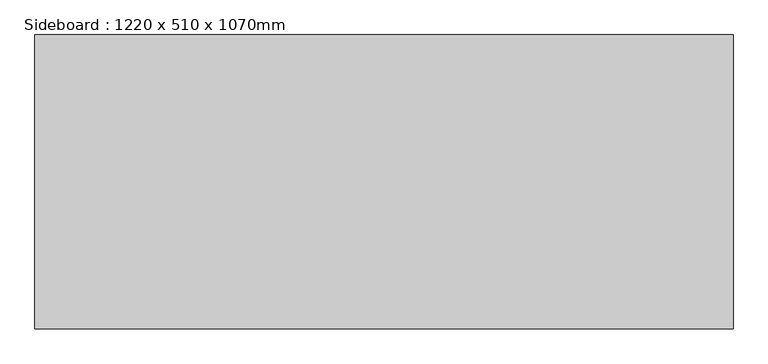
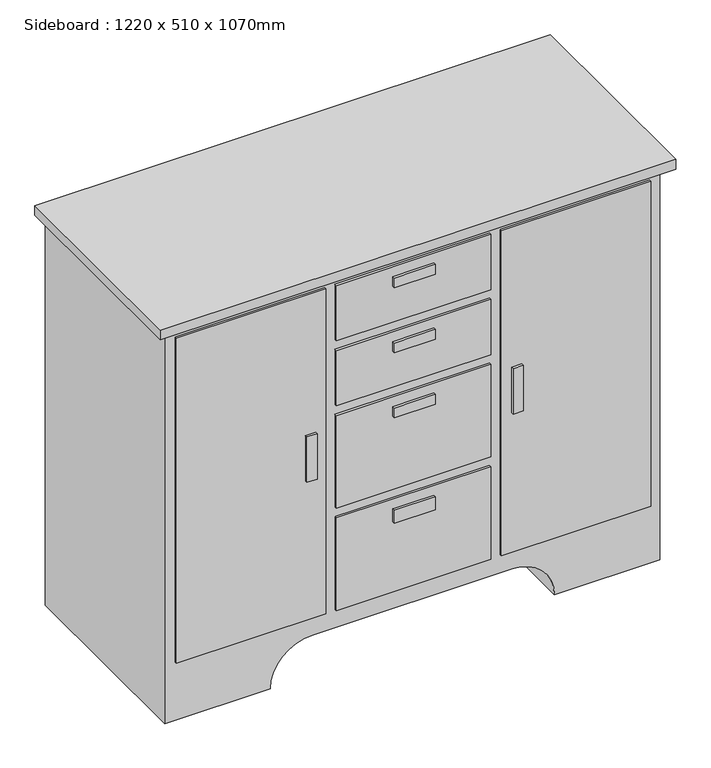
"""IFC4 building model written with IfcOpenShell, lengths in millimetres: furniture geometry, Sideboard : 1220 x 510 x 1070mm."""

from ifc_helpers import new_model, si_unit, point, frame, frame_2d, origin, place, context, project, spatial, polyline, circle_curve, trimmed, segment, composite_curve, outline, extrude, source, transform, mapped, element, save


def sideboard_1220_x_510_x_1070mm_fd823649(model_context):
    return source(origin(), model_context, "Body", "SweptSolid", [
        extrude(outline(composite_curve([segment(polyline([(0.3974948, 315.4067402), (1024.9401786, 315.4067402), (1024.9401786, -904.5932598), (0.3401786, -904.5932598), (0.3401786, -644.7676781)]), True, "CONTINUOUS"), segment(trimmed(circle_curve(frame_2d((0.3401786, -541.2410879)), 103.5265902), [point((0.3401786, -644.7676781))], [point((103.8667688, -541.2410879))], True, "CARTESIAN"), True, "CONTINUOUS"), segment(polyline([(103.8667688, -541.2410879), (103.8667688, -47.5265362)]), True, "CONTINUOUS"), segment(trimmed(circle_curve(frame_2d((0.3974948, -47.5265362)), 103.469274), [point((103.8667688, -47.5265362))], [point((0.3974948, 55.9427378))], True, "CARTESIAN"), True, "CONTINUOUS"), segment(polyline([(0.3974948, 55.9427378), (0.3974948, 315.4067402)]), True, "CONTINUOUS")], self_intersect=False)), frame((0.0, -618.1629541, 0.0), z_axis=(0.0, 1.0, 0.0), x_axis=(0.0, 0.0, 1.0)), (0.0, 0.0, 1.0), 510.0),
        extrude(outline(polyline([(-536.0265932, -630.8629541), (-561.4265932, -630.8629541), (-561.4265932, -624.5129541), (-536.0265932, -624.5129541), (-536.0265932, -630.8629541)])), frame((0.0, 0.0, 516.758125), z_axis=(0.0, 0.0, 1.0), x_axis=(1.0, 0.0, 0.0)), (0.0, 0.0, 1.0), 118.56),
        extrude(outline(polyline([(-244.5230145, -630.8629541), (-346.0702491, -630.8629541), (-346.0702491, -624.5129541), (-244.5230145, -624.5129541), (-244.5230145, -630.8629541)])), frame((0.0, 0.0, 948.7401786), z_axis=(0.0, 0.0, 1.0), x_axis=(1.0, 0.0, 0.0)), (0.0, 0.0, 1.0), 25.4),
        extrude(outline(polyline([(-244.5230145, -630.8629541), (-346.0702491, -630.8629541), (-346.0702491, -624.5129541), (-244.5230145, -624.5129541), (-244.5230145, -630.8629541)])), frame((0.0, 0.0, 779.3121429), z_axis=(0.0, 0.0, 1.0), x_axis=(1.0, 0.0, 0.0)), (0.0, 0.0, 1.0), 25.4),
        extrude(outline(polyline([(-244.5230145, -630.8629541), (-346.0702491, -630.8629541), (-346.0702491, -624.5129541), (-244.5230145, -624.5129541), (-244.5230145, -630.8629541)])), frame((0.0, 0.0, 609.918125), z_axis=(0.0, 0.0, 1.0), x_axis=(1.0, 0.0, 0.0)), (0.0, 0.0, 1.0), 25.4),
        extrude(outline(polyline([(-244.5230145, -630.8629541), (-346.0702491, -630.8629541), (-346.0702491, -624.5129541), (-244.5230145, -624.5129541), (-244.5230145, -630.8629541)])), frame((0.0, 0.0, 334.5620536), z_axis=(0.0, 0.0, 1.0), x_axis=(1.0, 0.0, 0.0)), (0.0, 0.0, 1.0), 33.88),
        extrude(outline(polyline([(-27.7599265, -630.8629541), (-53.1599265, -630.8629541), (-53.1599265, -624.5129541), (-27.7599265, -624.5129541), (-27.7599265, -630.8629541)])), frame((0.0, 0.0, 516.758125), z_axis=(0.0, 0.0, 1.0), x_axis=(1.0, 0.0, 0.0)), (0.0, 0.0, 1.0), 118.56),
        extrude(outline(polyline([(-510.6265932, -624.5129541), (-879.1932598, -624.5129541), (-879.1932598, -618.1629541), (-510.6265932, -618.1629541), (-510.6265932, -624.5129541)])), frame((0.0, 0.0, 152.4), z_axis=(0.0, 0.0, 1.0), x_axis=(1.0, 0.0, 0.0)), (0.0, 0.0, 1.0), 847.1401786),
        extrude(outline(polyline([(290.0067402, -624.5129541), (-78.5599265, -624.5129541), (-78.5599265, -618.1629541), (290.0067402, -618.1629541), (290.0067402, -624.5129541)])), frame((0.0, 0.0, 152.4), z_axis=(0.0, 0.0, 1.0), x_axis=(1.0, 0.0, 0.0)), (0.0, 0.0, 1.0), 847.1401786),
        extrude(outline(polyline([(-103.9599265, -624.5129541), (-485.2265932, -624.5129541), (-485.2265932, -618.1629541), (-103.9599265, -618.1629541), (-103.9599265, -624.5129541)])), frame((0.0, 0.0, 855.5121429), z_axis=(0.0, 0.0, 1.0), x_axis=(1.0, 0.0, 0.0)), (0.0, 0.0, 1.0), 144.0280357),
        extrude(outline(polyline([(-103.9599265, -624.5129541), (-485.2265932, -624.5129541), (-485.2265932, -618.1629541), (-103.9599265, -618.1629541), (-103.9599265, -624.5129541)])), frame((0.0, 0.0, 686.0841071), z_axis=(0.0, 0.0, 1.0), x_axis=(1.0, 0.0, 0.0)), (0.0, 0.0, 1.0), 144.0280357),
        extrude(outline(polyline([(-103.9599265, -624.5129541), (-485.2265932, -624.5129541), (-485.2265932, -618.1629541), (-103.9599265, -618.1629541), (-103.9599265, -624.5129541)])), frame((0.0, 0.0, 419.2420536), z_axis=(0.0, 0.0, 1.0), x_axis=(1.0, 0.0, 0.0)), (0.0, 0.0, 1.0), 241.4420536),
        extrude(outline(polyline([(-103.9599265, -624.5129541), (-485.2265932, -624.5129541), (-485.2265932, -618.1629541), (-103.9599265, -618.1629541), (-103.9599265, -624.5129541)])), frame((0.0, 0.0, 152.4), z_axis=(0.0, 0.0, 1.0), x_axis=(1.0, 0.0, 0.0)), (0.0, 0.0, 1.0), 241.4420536),
        extrude(outline(polyline([(340.8067402, -643.5629541), (-929.9932598, -643.5629541), (-929.9932598, -108.1629541), (340.8067402, -108.1629541), (340.8067402, -643.5629541)])), frame((0.0, 0.0, 1024.9401786), z_axis=(0.0, 0.0, 1.0), x_axis=(1.0, 0.0, 0.0)), (0.0, 0.0, 1.0), 25.4),
    ])


if __name__ == "__main__":
    model = new_model("IFC4")
    model_context = context("Model", 3, world=origin())
    ifc_project = project(units=[si_unit("LENGTHUNIT", "METRE", prefix="MILLI")], contexts=[model_context])
    site = spatial("IfcSite", under=ifc_project)
    building = spatial("IfcBuilding", under=site)
    placement = place(None, origin())
    sideboard_1220_x_510_x_1070mm_shape = sideboard_1220_x_510_x_1070mm_fd823649(model_context)
    element("IfcFurniture", 1, ObjectType="Sideboard : 1220 x 510 x 1070mm", at=placement, inside=building, context=model_context, shape_type="MappedRepresentation", body=[
        mapped(sideboard_1220_x_510_x_1070mm_shape, transform((0.0, 0.0, 0.0), x_axis=(1.0, 0.0, 0.0), y_axis=(0.0, 1.0, 0.0), z_axis=(0.0, 0.0, 1.0))),
    ])
    save(model, "model.ifc")
